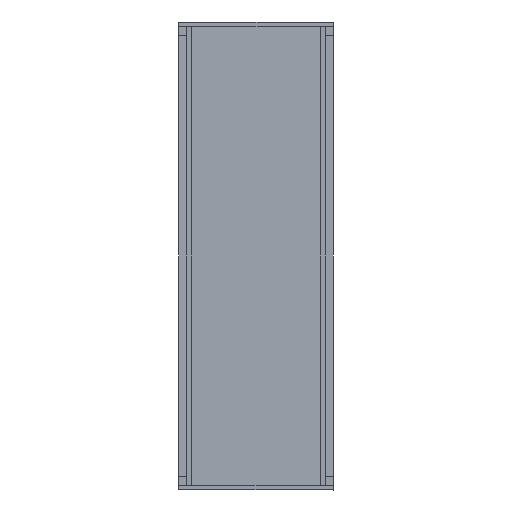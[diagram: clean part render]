
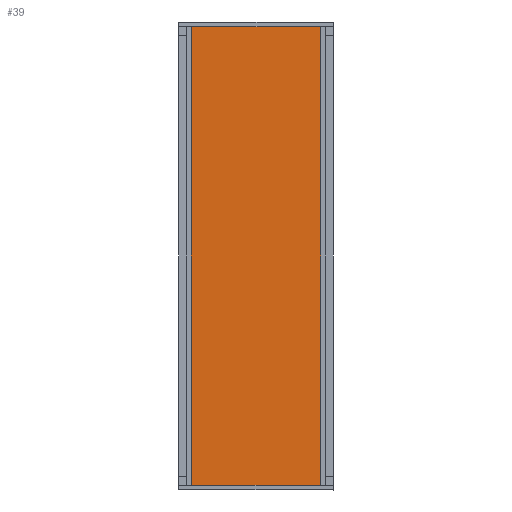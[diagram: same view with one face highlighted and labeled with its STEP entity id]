
A CAD part, front view. The second image highlights one B-rep face of the part: STEP entity #39.
In plain terms, the highlighted planar face has unit normal (0, -1, 0).
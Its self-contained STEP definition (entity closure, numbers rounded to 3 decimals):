
#39=ADVANCED_FACE('',(#99),#779,.T.);
#99=FACE_OUTER_BOUND('',#159,.T.);
#159=EDGE_LOOP('',(#240,#241,#242,#243));
#240=ORIENTED_EDGE('',*,*,#468,.F.);
#241=ORIENTED_EDGE('',*,*,#469,.F.);
#242=ORIENTED_EDGE('',*,*,#470,.F.);
#243=ORIENTED_EDGE('',*,*,#471,.F.);
#468=EDGE_CURVE('',#704,#705,#588,.T.);
#469=EDGE_CURVE('',#706,#704,#589,.T.);
#470=EDGE_CURVE('',#707,#706,#590,.T.);
#471=EDGE_CURVE('',#705,#707,#591,.T.);
#588=B_SPLINE_CURVE_WITH_KNOTS('',1,(#1110,#1111),.UNSPECIFIED.,.F.,.F.,
(2,2),(-1600.,0.),.UNSPECIFIED.);
#589=B_SPLINE_CURVE_WITH_KNOTS('',1,(#1112,#1113),.UNSPECIFIED.,.F.,.F.,
(2,2),(43.,495.),.UNSPECIFIED.);
#590=B_SPLINE_CURVE_WITH_KNOTS('',1,(#1114,#1115),.UNSPECIFIED.,.F.,.F.,
(2,2),(0.,1600.),.UNSPECIFIED.);
#591=B_SPLINE_CURVE_WITH_KNOTS('',1,(#1116,#1117),.UNSPECIFIED.,.F.,.F.,
(2,2),(43.,495.),.UNSPECIFIED.);
#704=VERTEX_POINT('',#1098);
#705=VERTEX_POINT('',#1099);
#706=VERTEX_POINT('',#1100);
#707=VERTEX_POINT('',#1101);
#779=PLANE('',#927);
#927=AXIS2_PLACEMENT_3D('',#1089,#990,$);
#990=DIRECTION('',(0.,-1.,0.));
#1089=CARTESIAN_POINT('',(-277.32,-24.,1782.12));
#1098=CARTESIAN_POINT('',(226.,-24.,1616.));
#1099=CARTESIAN_POINT('',(226.,-24.,16.));
#1100=CARTESIAN_POINT('',(-226.,-24.,1616.));
#1101=CARTESIAN_POINT('',(-226.,-24.,16.));
#1110=CARTESIAN_POINT('',(226.,-24.,1616.));
#1111=CARTESIAN_POINT('',(226.,-24.,16.));
#1112=CARTESIAN_POINT('',(-226.,-24.,1616.));
#1113=CARTESIAN_POINT('',(226.,-24.,1616.));
#1114=CARTESIAN_POINT('',(-226.,-24.,16.));
#1115=CARTESIAN_POINT('',(-226.,-24.,1616.));
#1116=CARTESIAN_POINT('',(226.,-24.,16.));
#1117=CARTESIAN_POINT('',(-226.,-24.,16.));
